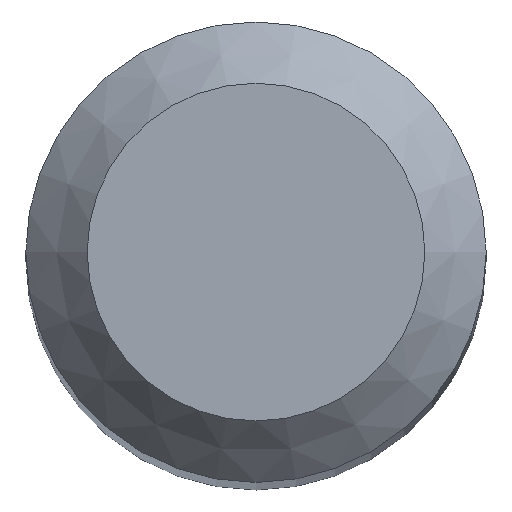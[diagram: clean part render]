
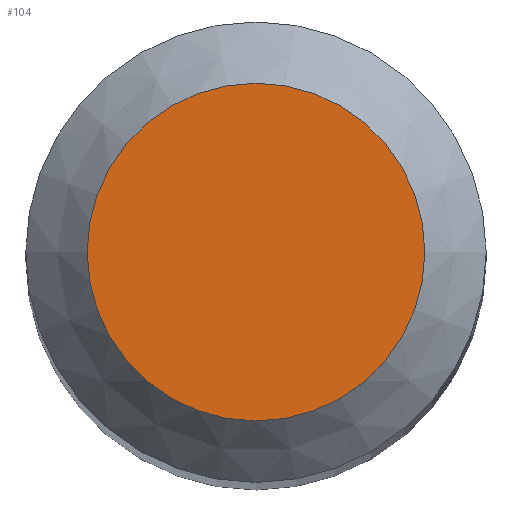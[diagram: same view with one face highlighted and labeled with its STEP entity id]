
A CAD part, top view. The second image highlights one B-rep face of the part: STEP entity #104.
In plain terms, the highlighted planar face has unit normal (0, 0, 1).
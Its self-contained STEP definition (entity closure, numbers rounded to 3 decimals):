
#88=CARTESIAN_POINT('',(2.2,0.0,110.0));
#89=DIRECTION('',(0.0,0.0,1.0));
#90=DIRECTION('',(1.0,0.0,0.0));
#91=AXIS2_PLACEMENT_3D('',#88,#89,#90);
#92=PLANE('',#91);
#93=CARTESIAN_POINT('',(-2.2,0.0,110.0));
#94=VERTEX_POINT('',#93);
#95=CARTESIAN_POINT('',(0.0,0.0,110.0));
#96=DIRECTION('',(0.0,0.0,-1.0));
#97=DIRECTION('',(-1.0,0.0,0.0));
#98=AXIS2_PLACEMENT_3D('',#95,#96,#97);
#99=CIRCLE('',#98,2.2);
#100=EDGE_CURVE('',#94,#94,#99,.T.);
#101=ORIENTED_EDGE('',*,*,#100,.F.);
#102=EDGE_LOOP('',(#101));
#103=FACE_OUTER_BOUND('',#102,.T.);
#104=ADVANCED_FACE('',(#103),#92,.T.);
